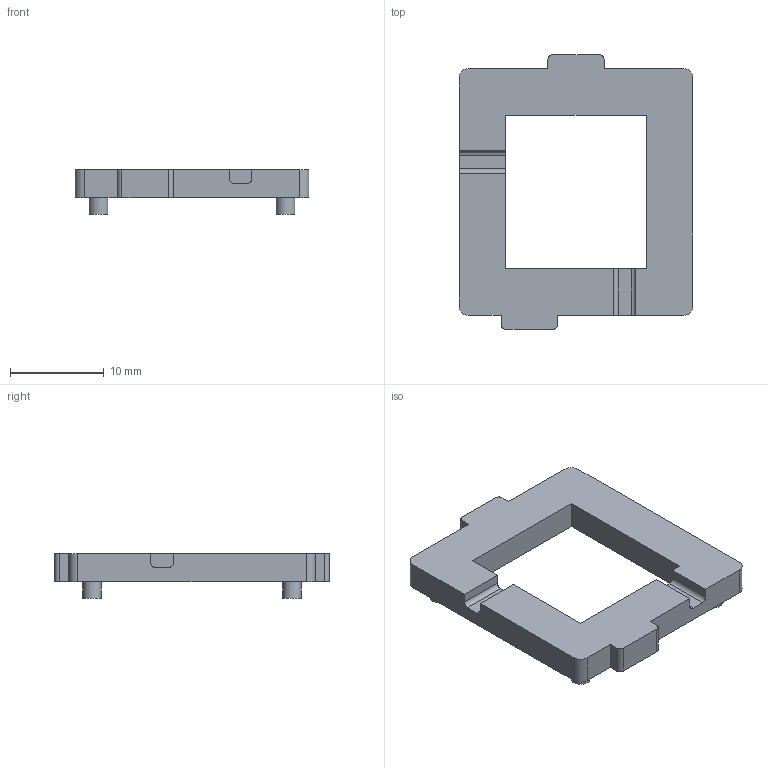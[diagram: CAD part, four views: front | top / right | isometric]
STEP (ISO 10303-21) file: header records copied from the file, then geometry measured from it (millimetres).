
FILE_DESCRIPTION(/* description */ (''),/* implementation_level */ '2;1');
FILE_NAME(/* name */ 'Supporto_Test_Splitter_Top_Optimized.step',/* time_stamp */ '2023-03-13T17:28:05+01:00',/* author */ (''),/* organization */ (''),/* preprocessor_version */ 'ST-DEVELOPER v19.2',/* originating_system */ 'Autodesk Translation Framework v11.17.0.187',/* authorisation */ '');
FILE_SCHEMA (('AUTOMOTIVE_DESIGN { 1 0 10303 214 3 1 1 }'));
Length unit declared in the file: millimetre
Products named in the file (1): Supporto_Test_Splitter_Top_Optimized
Bounding box: 25 x 29.4 x 4.8 mm (x, y, z)
Volume: 1280.5 mm3; surface area: 1425.9 mm2
Topology: 1 solids, 1 shells, 45 faces, 120 edges, 80 vertices
Faces by surface type: plane 29, cylinder 16
Full cylindrical faces by diameter (mm): 2 x4
Entity records: 1443 total; most frequent: CARTESIAN_POINT 246, DIRECTION 244, ORIENTED_EDGE 240, EDGE_CURVE 120, LINE 88, VECTOR 88, VERTEX_POINT 80, AXIS2_PLACEMENT_3D 78
